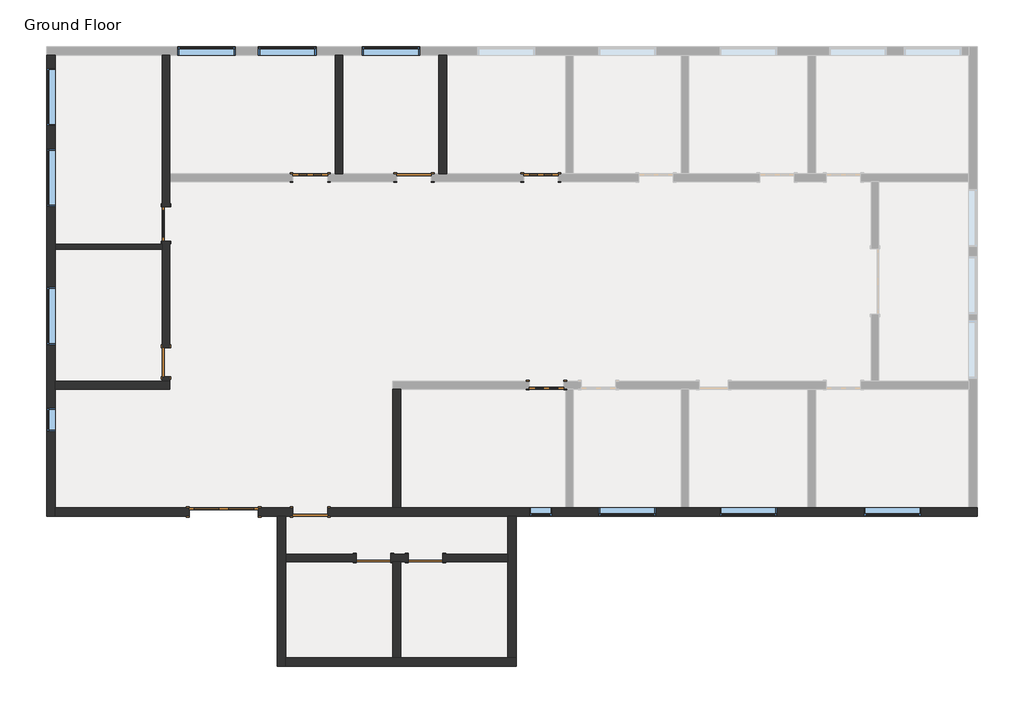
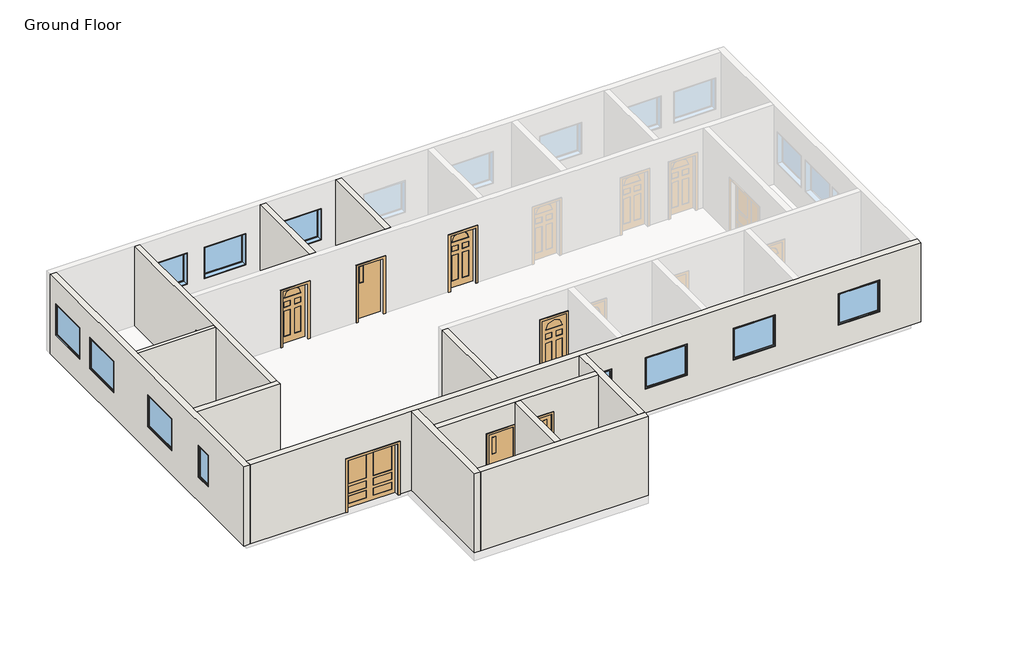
# One storey, part 1 of 2: 13 walls, 11 windows, 10 doors.
"""IFC4 building model written with IfcOpenShell, lengths in millimetres."""

from ifc_helpers import new_model, si_unit, origin, origin_with_axes, place, context, project, spatial, polyline, outline, extrude, faceted_brep, transform, mapped, element, save
from components import door_5adec8b9, door_f6339938, door_4314e8ec, door_6ffddb7e, door_a570ce24, door_2b60cb60, door_505a9a4a, window_c82808a1, window_145d3b12

model = new_model("IFC4")

# Units and contexts
model_context = context("Model", 3, world=origin())
ifc_project = project(units=[si_unit("LENGTHUNIT", "METRE", prefix="MILLI")], contexts=[model_context])

# Site, building, storey
site = spatial("IfcSite", under=ifc_project)
building = spatial("IfcBuilding", under=site)
storey = spatial("IfcBuildingStorey", under=building, Name="Ground Floor", Elevation=0.0)

# Doors
placement = place(None, origin())
door_shape = door_5adec8b9(model_context)
element("IfcDoor", 1, ObjectType="Double-Panel 1 : 72\" x 78\"", at=placement, inside=storey, context=model_context, shape_type="MappedRepresentation", body=[
    mapped(door_shape, transform((-8706.0529941, -493.1212203, 0.0), x_axis=(1.0, 0.0, 0.0), y_axis=(0.0, 1.0, 0.0), z_axis=(0.0, 0.0, 1.0))),
])
door_2_shape = door_f6339938(model_context)
element("IfcDoor", 2, ObjectType="Single-Decorative 2 : 36\" x 84\"", at=placement, inside=storey, context=model_context, shape_type="MappedRepresentation", body=[
    mapped(door_2_shape, transform((-6420.0529941, 8346.0787797, 0.0), x_axis=(1.0, 0.0, 0.0), y_axis=(0.0, 1.0, 0.0), z_axis=(0.0, 0.0, 1.0))),
])
element("IfcDoor", 3, ObjectType="Single-Decorative 2 : 36\" x 84\"", at=placement, inside=storey, context=model_context, shape_type="MappedRepresentation", body=[
    mapped(door_2_shape, transform((-324.0529941, 8346.0787797, 0.0), x_axis=(1.0, 0.0, 0.0), y_axis=(0.0, 1.0, 0.0), z_axis=(0.0, 0.0, 1.0))),
])
element("IfcDoor", 4, ObjectType="Single-Decorative 2 : 36\" x 84\"", at=placement, inside=storey, context=model_context, shape_type="MappedRepresentation", body=[
    mapped(door_2_shape, transform((-171.6529941, 2859.6787797, 0.0), x_axis=(-1.0, 0.0, 0.0), y_axis=(0.0, -1.0, 0.0), z_axis=(0.0, 0.0, 1.0))),
])
door_3_shape = door_4314e8ec(model_context)
element("IfcDoor", 5, ObjectType="Single-Flush : 30\" x 84\"", at=placement, inside=storey, context=model_context, shape_type="MappedRepresentation", body=[
    mapped(door_3_shape, transform((-10230.0529941, 3469.2787797, 0.0), x_axis=(0.0, -1.0, 0.0), y_axis=(1.0, 0.0, 0.0), z_axis=(0.0, 0.0, 1.0))),
])
door_4_shape = door_6ffddb7e(model_context)
element("IfcDoor", 6, ObjectType="Single-Flush Vision : 36\" x 84\"", at=placement, inside=storey, context=model_context, shape_type="MappedRepresentation", body=[
    mapped(door_4_shape, transform((-3676.8529941, 8346.0787797, 0.0), x_axis=(1.0, 0.0, 0.0), y_axis=(0.0, 1.0, 0.0), z_axis=(0.0, 0.0, 1.0))),
])
element("IfcDoor", 7, ObjectType="Single-Flush Vision : 36\" x 84\"", at=placement, inside=storey, context=model_context, shape_type="MappedRepresentation", body=[
    mapped(door_4_shape, transform((-3372.0529941, -1712.3212203, 0.0), x_axis=(-1.0, 0.0, 0.0), y_axis=(0.0, -1.0, 0.0), z_axis=(0.0, 0.0, 1.0))),
])
door_5_shape = door_a570ce24(model_context)
element("IfcDoor", 8, ObjectType="Single-Flush Vision : 36\" x 84\"", at=placement, inside=storey, context=model_context, shape_type="MappedRepresentation", body=[
    mapped(door_5_shape, transform((-6420.0529941, -493.1212203, 0.0), x_axis=(-1.0, 0.0, 0.0), y_axis=(0.0, -1.0, 0.0), z_axis=(0.0, 0.0, 1.0))),
])
door_6_shape = door_2b60cb60(model_context)
element("IfcDoor", 9, ObjectType="Single-Flush Vision : 36\" x 84\"", at=placement, inside=storey, context=model_context, shape_type="MappedRepresentation", body=[
    mapped(door_6_shape, transform((-4743.6529941, -1712.3212203, 0.0), x_axis=(1.0, 0.0, 0.0), y_axis=(0.0, 1.0, 0.0), z_axis=(0.0, 0.0, 1.0))),
])
door_7_shape = door_505a9a4a(model_context)
element("IfcDoor", 10, ObjectType="Single-Glass 1 : 36\" x 84\"", at=placement, inside=storey, context=model_context, shape_type="MappedRepresentation", body=[
    mapped(door_7_shape, transform((-10230.0529941, 7126.8787797, 0.0), x_axis=(0.0, -1.0, 0.0), y_axis=(1.0, 0.0, 0.0), z_axis=(0.0, 0.0, 1.0))),
])

# Walls
element("IfcWall", 11, ObjectType="Generic - 5\"", at=placement, inside=storey, context=model_context, shape_type="SweptSolid", body=[
    extrude(outline(polyline([(-10331.6529941, 6453.7787797), (-13163.7529941, 6453.7787797), (-13163.7529941, 6580.7787797), (-10331.6529941, 6580.7787797), (-10331.6529941, 6453.7787797)])), origin_with_axes(), (0.0, 0.0, 1.0), 3048.0),
])
element("IfcWall", 12, ObjectType="Generic - 8\"", at=placement, inside=storey, context=model_context, shape_type="Brep", body=[
    faceted_brep([(-10331.6529941, 6669.6787797, 2133.6), (-10331.6529941, 6669.6787797, 0.0), (-10331.6529941, 6580.7787797, 0.0), (-10331.6529941, 6453.7787797, 0.0), (-10331.6529941, 3850.2787797, 0.0), (-10331.6529941, 3850.2787797, 2133.6), (-10331.6529941, 3088.2787797, 2133.6), (-10331.6529941, 3088.2787797, 0.0), (-10331.6529941, 2961.2787797, 0.0), (-10331.6529941, 2961.2787797, 3048.0), (-10331.6529941, 6453.7787797, 3048.0), (-10331.6529941, 6580.7787797, 3048.0), (-10331.6529941, 11584.5787797, 3048.0), (-10331.6529941, 11584.5787797, 0.0), (-10331.6529941, 7584.0787797, 0.0), (-10331.6529941, 7584.0787797, 2133.6), (-10128.4529941, 3850.2787797, 0.0), (-10128.4529941, 6669.6787797, 0.0), (-10128.4529941, 6669.6787797, 2133.6), (-10128.4529941, 7584.0787797, 2133.6), (-10128.4529941, 7584.0787797, 0.0), (-10128.4529941, 8244.4787797, 0.0), (-10128.4529941, 8447.6787797, 0.0), (-10128.4529941, 11584.5787797, 0.0), (-10128.4529941, 11584.5787797, 3048.0), (-10128.4529941, 8447.6787797, 3048.0), (-10128.4529941, 8244.4787797, 3048.0), (-10128.4529941, 2961.2787797, 3048.0), (-10128.4529941, 2961.2787797, 0.0), (-10128.4529941, 3088.2787797, 0.0), (-10128.4529941, 3088.2787797, 2133.6), (-10128.4529941, 3850.2787797, 2133.6)], [[[0, 1, 2, 3, 4, 5, 6, 7, 8, 9, 10, 11, 12, 13, 14, 15]], [[16, 17, 18, 19, 20, 21, 22, 23, 24, 25, 26, 27, 28, 29, 30, 31]], [[8, 7, 29, 28]], [[14, 13, 23, 22, 21, 20]], [[4, 3, 2, 1, 17, 16]], [[12, 11, 10, 9, 27, 26, 25, 24]], [[13, 12, 24, 23]], [[9, 8, 28, 27]], [[30, 29, 7, 6]], [[31, 30, 6, 5]], [[16, 31, 5, 4]], [[18, 17, 1, 0]], [[19, 18, 0, 15]], [[20, 19, 15, 14]]]),
])
element("IfcWall", 13, ObjectType="Generic - 8\"", at=placement, inside=storey, context=model_context, shape_type="Brep", body=[
    faceted_brep([(-10128.4529941, 2961.2787797, 0.0), (-10331.6529941, 2961.2787797, 0.0), (-13163.7529941, 2961.2787797, 0.0), (-13163.7529941, 2961.2787797, 3048.0), (-10331.6529941, 2961.2787797, 3048.0), (-10128.4529941, 2961.2787797, 3048.0), (-10128.4529941, 2758.0787797, 0.0), (-10128.4529941, 2758.0787797, 3048.0), (-13163.7529941, 2758.0787797, 3048.0), (-13163.7529941, 2758.0787797, 0.0)], [[[0, 1, 2, 3, 4, 5]], [[6, 7, 8, 9]], [[2, 1, 0, 6, 9]], [[5, 4, 3, 8, 7]], [[3, 2, 9, 8]], [[0, 5, 7, 6]]]),
])
element("IfcWall", 14, ObjectType="Generic - 8\"", at=placement, inside=storey, context=model_context, shape_type="SweptSolid", body=[
    extrude(outline(polyline([(-5556.4529941, 11584.5787797), (-5556.4529941, 8447.6787797), (-5759.6529941, 8447.6787797), (-5759.6529941, 11584.5787797), (-5556.4529941, 11584.5787797)])), origin_with_axes(), (0.0, 0.0, 1.0), 3048.0),
])
element("IfcWall", 15, ObjectType="Generic - 8\"", at=placement, inside=storey, context=model_context, shape_type="SweptSolid", body=[
    extrude(outline(polyline([(-3016.4529941, 8447.6787797), (-3016.4529941, 11584.5787797), (-2813.2529941, 11584.5787797), (-2813.2529941, 8447.6787797), (-3016.4529941, 8447.6787797)])), origin_with_axes(), (0.0, 0.0, 1.0), 3048.0),
])
element("IfcWall", 16, ObjectType="Generic - 8\"", at=placement, inside=storey, context=model_context, shape_type="SweptSolid", body=[
    extrude(outline(polyline([(-4032.4529941, 2758.0787797), (-4032.4529941, -378.8212203), (-4235.6529941, -378.8212203), (-4235.6529941, 2758.0787797), (-4032.4529941, 2758.0787797)])), origin_with_axes(), (0.0, 0.0, 1.0), 3048.0),
])
element("IfcWall", 17, ObjectType="Generic - 8\"", at=placement, inside=storey, context=model_context, shape_type="SweptSolid", body=[
    extrude(outline(polyline([(-4032.4529941, -1813.9212203), (-4032.4529941, -4341.2212203), (-4235.6529941, -4341.2212203), (-4235.6529941, -1813.9212203), (-4032.4529941, -1813.9212203)])), origin_with_axes(), (0.0, 0.0, 1.0), 3048.0),
])
element("IfcWall", 18, ObjectType="Generic - 8\"", at=placement, inside=storey, context=model_context, shape_type="Brep", body=[
    faceted_brep([(-3829.2529941, -1610.7212203, 2133.6), (-3829.2529941, -1610.7212203, 0.0), (-4286.4529941, -1610.7212203, 0.0), (-4286.4529941, -1610.7212203, 2133.6), (-5200.8529941, -1610.7212203, 2133.6), (-5200.8529941, -1610.7212203, 0.0), (-7067.7529941, -1610.7212203, 0.0), (-7067.7529941, -1610.7212203, 3048.0), (-1200.3529941, -1610.7212203, 3048.0), (-1200.3529941, -1610.7212203, 0.0), (-2914.8529941, -1610.7212203, 0.0), (-2914.8529941, -1610.7212203, 2133.6), (-4286.4529941, -1813.9212203, 0.0), (-4235.6529941, -1813.9212203, 0.0), (-4032.4529941, -1813.9212203, 0.0), (-3829.2529941, -1813.9212203, 0.0), (-3829.2529941, -1813.9212203, 2133.6), (-2914.8529941, -1813.9212203, 2133.6), (-2914.8529941, -1813.9212203, 0.0), (-1200.3529941, -1813.9212203, 0.0), (-1200.3529941, -1813.9212203, 3048.0), (-4032.4529941, -1813.9212203, 3048.0), (-4235.6529941, -1813.9212203, 3048.0), (-7067.7529941, -1813.9212203, 3048.0), (-7067.7529941, -1813.9212203, 0.0), (-5200.8529941, -1813.9212203, 0.0), (-5200.8529941, -1813.9212203, 2133.6), (-4286.4529941, -1813.9212203, 2133.6)], [[[0, 1, 2, 3, 4, 5, 6, 7, 8, 9, 10, 11]], [[12, 13, 14, 15, 16, 17, 18, 19, 20, 21, 22, 23, 24, 25, 26, 27]], [[25, 24, 6, 5]], [[10, 9, 19, 18]], [[2, 1, 15, 14, 13, 12]], [[8, 7, 23, 22, 21, 20]], [[7, 6, 24, 23]], [[9, 8, 20, 19]], [[3, 2, 12, 27]], [[4, 3, 27, 26]], [[5, 4, 26, 25]], [[16, 15, 1, 0]], [[17, 16, 0, 11]], [[18, 17, 11, 10]]]),
])
element("IfcWall", 19, ObjectType="Generic- 9\"", at=placement, inside=storey, context=model_context, shape_type="Brep", body=[
    faceted_brep([(-13163.7529941, -607.4212203, 0.0), (-13163.7529941, -378.8212203, 0.0), (-13163.7529941, 2758.0787797, 0.0), (-13163.7529941, 2961.2787797, 0.0), (-13163.7529941, 6453.7787797, 0.0), (-13163.7529941, 6580.7787797, 0.0), (-13163.7529941, 11584.5787797, 0.0), (-13163.7529941, 11584.5787797, 3048.0), (-13163.7529941, 6580.7787797, 3048.0), (-13163.7529941, 6453.7787797, 3048.0), (-13163.7529941, 2961.2787797, 3048.0), (-13163.7529941, 2758.0787797, 3048.0), (-13163.7529941, -378.8212203, 3048.0), (-13163.7529941, -607.4212203, 3048.0), (-13163.7529941, 5450.4787797, 2133.6), (-13163.7529941, 5450.4787797, 914.4), (-13163.7529941, 3926.4787797, 914.4), (-13163.7529941, 3926.4787797, 2133.6), (-13163.7529941, 9108.0787797, 2133.6), (-13163.7529941, 9108.0787797, 914.4), (-13163.7529941, 7584.0787797, 914.4), (-13163.7529941, 7584.0787797, 2133.6), (-13163.7529941, 11241.6787797, 2133.6), (-13163.7529941, 11241.6787797, 914.4), (-13163.7529941, 9717.6787797, 914.4), (-13163.7529941, 9717.6787797, 2133.6), (-13163.7529941, 2250.0787797, 2133.6), (-13163.7529941, 2250.0787797, 914.4), (-13163.7529941, 1640.4787797, 914.4), (-13163.7529941, 1640.4787797, 2133.6), (-13392.3529941, -607.4212203, 0.0), (-13392.3529941, -607.4212203, 3048.0), (-13392.3529941, 11584.5787797, 3048.0), (-13392.3529941, 11584.5787797, 0.0), (-13392.3529941, 5450.4787797, 2133.6), (-13392.3529941, 3926.4787797, 2133.6), (-13392.3529941, 3926.4787797, 914.4), (-13392.3529941, 5450.4787797, 914.4), (-13392.3529941, 9108.0787797, 2133.6), (-13392.3529941, 7584.0787797, 2133.6), (-13392.3529941, 7584.0787797, 914.4), (-13392.3529941, 9108.0787797, 914.4), (-13392.3529941, 11241.6787797, 2133.6), (-13392.3529941, 9717.6787797, 2133.6), (-13392.3529941, 9717.6787797, 914.4), (-13392.3529941, 11241.6787797, 914.4), (-13392.3529941, 2250.0787797, 2133.6), (-13392.3529941, 1640.4787797, 2133.6), (-13392.3529941, 1640.4787797, 914.4), (-13392.3529941, 2250.0787797, 914.4)], [[[0, 1, 2, 3, 4, 5, 6, 7, 8, 9, 10, 11, 12, 13], [14, 15, 16, 17], [18, 19, 20, 21], [22, 23, 24, 25], [26, 27, 28, 29]], [[30, 31, 32, 33], [34, 35, 36, 37], [38, 39, 40, 41], [42, 43, 44, 45], [46, 47, 48, 49]], [[6, 5, 4, 3, 2, 1, 0, 30, 33]], [[13, 12, 11, 10, 9, 8, 7, 32, 31]], [[0, 13, 31, 30]], [[7, 6, 33, 32]], [[15, 14, 34, 37]], [[16, 15, 37, 36]], [[17, 16, 36, 35]], [[14, 17, 35, 34]], [[19, 18, 38, 41]], [[20, 19, 41, 40]], [[21, 20, 40, 39]], [[18, 21, 39, 38]], [[23, 22, 42, 45]], [[24, 23, 45, 44]], [[25, 24, 44, 43]], [[22, 25, 43, 42]], [[27, 26, 46, 49]], [[28, 27, 49, 48]], [[29, 28, 48, 47]], [[26, 29, 47, 46]]]),
])
element("IfcWall", 20, ObjectType="Generic- 9\"", at=placement, inside=storey, context=model_context, shape_type="Brep", body=[
    faceted_brep([(-6877.2529941, -378.8212203, 2133.6), (-6877.2529941, -378.8212203, 0.0), (-7791.6529941, -378.8212203, 0.0), (-7791.6529941, -378.8212203, 1981.2), (-9620.4529941, -378.8212203, 1981.2), (-9620.4529941, -378.8212203, 0.0), (-13163.7529941, -378.8212203, 0.0), (-13163.7529941, -378.8212203, 3048.0), (-4235.6529941, -378.8212203, 3048.0), (-4032.4529941, -378.8212203, 3048.0), (336.3470059, -378.8212203, 3048.0), (539.5470059, -378.8212203, 3048.0), (3384.3470059, -378.8212203, 3048.0), (3587.5470059, -378.8212203, 3048.0), (6737.1470059, -378.8212203, 3048.0), (6940.3470059, -378.8212203, 3048.0), (10991.6470059, -378.8212203, 3048.0), (11220.2470059, -378.8212203, 3048.0), (11220.2470059, -378.8212203, 0.0), (10991.6470059, -378.8212203, 0.0), (6940.3470059, -378.8212203, 0.0), (6737.1470059, -378.8212203, 0.0), (3587.5470059, -378.8212203, 0.0), (3384.3470059, -378.8212203, 0.0), (539.5470059, -378.8212203, 0.0), (336.3470059, -378.8212203, 0.0), (-4032.4529941, -378.8212203, 0.0), (-4235.6529941, -378.8212203, 0.0), (-5962.8529941, -378.8212203, 0.0), (-5962.8529941, -378.8212203, 2133.6), (8210.3470059, -378.8212203, 2133.6), (8210.3470059, -378.8212203, 914.4), (9734.3470059, -378.8212203, 914.4), (9734.3470059, -378.8212203, 2133.6), (4400.3470059, -378.8212203, 2133.6), (4400.3470059, -378.8212203, 914.4), (5924.3470059, -378.8212203, 914.4), (5924.3470059, -378.8212203, 2133.6), (1199.9470059, -378.8212203, 2133.6), (1199.9470059, -378.8212203, 914.4), (2723.9470059, -378.8212203, 914.4), (2723.9470059, -378.8212203, 2133.6), (-628.8529941, -378.8212203, 2133.6), (-628.8529941, -378.8212203, 914.4), (-19.2529941, -378.8212203, 914.4), (-19.2529941, -378.8212203, 2133.6), (-7791.6529941, -607.4212203, 0.0), (-7296.3529941, -607.4212203, 0.0), (-7067.7529941, -607.4212203, 0.0), (-6877.2529941, -607.4212203, 0.0), (-6877.2529941, -607.4212203, 2133.6), (-5962.8529941, -607.4212203, 2133.6), (-5962.8529941, -607.4212203, 0.0), (-1200.3529941, -607.4212203, 0.0), (-971.7529941, -607.4212203, 0.0), (11220.2470059, -607.4212203, 0.0), (11220.2470059, -607.4212203, 3048.0), (-971.7529941, -607.4212203, 3048.0), (-1200.3529941, -607.4212203, 3048.0), (-7067.7529941, -607.4212203, 3048.0), (-7296.3529941, -607.4212203, 3048.0), (-13163.7529941, -607.4212203, 3048.0), (-13163.7529941, -607.4212203, 0.0), (-9620.4529941, -607.4212203, 0.0), (-9620.4529941, -607.4212203, 1981.2), (-7791.6529941, -607.4212203, 1981.2), (8210.3470059, -607.4212203, 2133.6), (9734.3470059, -607.4212203, 2133.6), (9734.3470059, -607.4212203, 914.4), (8210.3470059, -607.4212203, 914.4), (4400.3470059, -607.4212203, 2133.6), (5924.3470059, -607.4212203, 2133.6), (5924.3470059, -607.4212203, 914.4), (4400.3470059, -607.4212203, 914.4), (1199.9470059, -607.4212203, 2133.6), (2723.9470059, -607.4212203, 2133.6), (2723.9470059, -607.4212203, 914.4), (1199.9470059, -607.4212203, 914.4), (-628.8529941, -607.4212203, 2133.6), (-19.2529941, -607.4212203, 2133.6), (-19.2529941, -607.4212203, 914.4), (-628.8529941, -607.4212203, 914.4)], [[[0, 1, 2, 3, 4, 5, 6, 7, 8, 9, 10, 11, 12, 13, 14, 15, 16, 17, 18, 19, 20, 21, 22, 23, 24, 25, 26, 27, 28, 29], [30, 31, 32, 33], [34, 35, 36, 37], [38, 39, 40, 41], [42, 43, 44, 45]], [[46, 47, 48, 49, 50, 51, 52, 53, 54, 55, 56, 57, 58, 59, 60, 61, 62, 63, 64, 65], [66, 67, 68, 69], [70, 71, 72, 73], [74, 75, 76, 77], [78, 79, 80, 81]], [[62, 6, 5, 63]], [[2, 1, 49, 48, 47, 46]], [[28, 27, 26, 25, 24, 23, 22, 21, 20, 19, 18, 55, 54, 53, 52]], [[17, 16, 15, 14, 13, 12, 11, 10, 9, 8, 7, 61, 60, 59, 58, 57, 56]], [[18, 17, 56, 55]], [[7, 6, 62, 61]], [[65, 3, 2, 46]], [[3, 65, 64, 4]], [[4, 64, 63, 5]], [[50, 49, 1, 0]], [[51, 50, 0, 29]], [[52, 51, 29, 28]], [[31, 30, 66, 69]], [[32, 31, 69, 68]], [[33, 32, 68, 67]], [[30, 33, 67, 66]], [[35, 34, 70, 73]], [[36, 35, 73, 72]], [[37, 36, 72, 71]], [[34, 37, 71, 70]], [[39, 38, 74, 77]], [[40, 39, 77, 76]], [[41, 40, 76, 75]], [[38, 41, 75, 74]], [[43, 42, 78, 81]], [[44, 43, 81, 80]], [[45, 44, 80, 79]], [[42, 45, 79, 78]]]),
])
element("IfcWall", 21, ObjectType="Generic- 9\"", at=placement, inside=storey, context=model_context, shape_type="Brep", body=[
    faceted_brep([(-7296.3529941, -607.4212203, 0.0), (-7296.3529941, -4569.8212203, 0.0), (-7296.3529941, -4569.8212203, 3048.0), (-7296.3529941, -607.4212203, 3048.0), (-7067.7529941, -607.4212203, 0.0), (-7067.7529941, -607.4212203, 3048.0), (-7067.7529941, -1610.7212203, 3048.0), (-7067.7529941, -1813.9212203, 3048.0), (-7067.7529941, -4341.2212203, 3048.0), (-7067.7529941, -4569.8212203, 3048.0), (-7067.7529941, -4569.8212203, 0.0), (-7067.7529941, -4341.2212203, 0.0), (-7067.7529941, -1813.9212203, 0.0), (-7067.7529941, -1610.7212203, 0.0)], [[[0, 1, 2, 3]], [[4, 5, 6, 7, 8, 9, 10, 11, 12, 13]], [[1, 0, 4, 13, 12, 11, 10]], [[3, 2, 9, 8, 7, 6, 5]], [[0, 3, 5, 4]], [[2, 1, 10, 9]]]),
])
element("IfcWall", 22, ObjectType="Generic- 9\"", at=placement, inside=storey, context=model_context, shape_type="Brep", body=[
    faceted_brep([(-7067.7529941, -4569.8212203, 0.0), (-971.7529941, -4569.8212203, 0.0), (-971.7529941, -4569.8212203, 3048.0), (-7067.7529941, -4569.8212203, 3048.0), (-7067.7529941, -4341.2212203, 0.0), (-7067.7529941, -4341.2212203, 3048.0), (-4235.6529941, -4341.2212203, 3048.0), (-4032.4529941, -4341.2212203, 3048.0), (-1200.3529941, -4341.2212203, 3048.0), (-971.7529941, -4341.2212203, 3048.0), (-971.7529941, -4341.2212203, 0.0), (-1200.3529941, -4341.2212203, 0.0), (-4032.4529941, -4341.2212203, 0.0), (-4235.6529941, -4341.2212203, 0.0)], [[[0, 1, 2, 3]], [[4, 5, 6, 7, 8, 9, 10, 11, 12, 13]], [[1, 0, 4, 13, 12, 11, 10]], [[3, 2, 9, 8, 7, 6, 5]], [[0, 3, 5, 4]], [[2, 1, 10, 9]]]),
])
element("IfcWall", 23, ObjectType="Generic- 9\"", at=placement, inside=storey, context=model_context, shape_type="Brep", body=[
    faceted_brep([(-971.7529941, -4341.2212203, 0.0), (-971.7529941, -607.4212203, 0.0), (-971.7529941, -607.4212203, 3048.0), (-971.7529941, -4341.2212203, 3048.0), (-1200.3529941, -4341.2212203, 0.0), (-1200.3529941, -4341.2212203, 3048.0), (-1200.3529941, -1813.9212203, 3048.0), (-1200.3529941, -1610.7212203, 3048.0), (-1200.3529941, -607.4212203, 3048.0), (-1200.3529941, -607.4212203, 0.0), (-1200.3529941, -1610.7212203, 0.0), (-1200.3529941, -1813.9212203, 0.0)], [[[0, 1, 2, 3]], [[4, 5, 6, 7, 8, 9, 10, 11]], [[1, 0, 4, 11, 10, 9]], [[3, 2, 8, 7, 6, 5]], [[0, 3, 5, 4]], [[2, 1, 9, 8]]]),
])

# Windows
window_shape = window_c82808a1(model_context)
element("IfcWindow", 24, ObjectType="Fixed : 24\" x 48\"", at=placement, inside=storey, context=model_context, shape_type="MappedRepresentation", body=[
    mapped(window_shape, transform((-362.1529941, -493.1212203, 0.0), x_axis=(-1.0, 0.0, 0.0), y_axis=(0.0, -1.0, 0.0), z_axis=(0.0, 0.0, 1.0))),
])
element("IfcWindow", 25, ObjectType="Fixed : 24\" x 48\"", at=placement, inside=storey, context=model_context, shape_type="MappedRepresentation", body=[
    mapped(window_shape, transform((-13278.0529941, 1983.3787797, 0.0), x_axis=(0.0, 1.0, 0.0), y_axis=(-1.0, 0.0, 0.0), z_axis=(0.0, 0.0, 1.0))),
])
window_2_shape = window_145d3b12(model_context)
element("IfcWindow", 26, ObjectType="Fixed : 60\" x 48\"", at=placement, inside=storey, context=model_context, shape_type="MappedRepresentation", body=[
    mapped(window_2_shape, transform((-13278.0529941, 4726.5787797, 0.0), x_axis=(0.0, 1.0, 0.0), y_axis=(-1.0, 0.0, 0.0), z_axis=(0.0, 0.0, 1.0))),
])
element("IfcWindow", 27, ObjectType="Fixed : 60\" x 48\"", at=placement, inside=storey, context=model_context, shape_type="MappedRepresentation", body=[
    mapped(window_2_shape, transform((-13278.0529941, 8384.1787797, 0.0), x_axis=(0.0, 1.0, 0.0), y_axis=(-1.0, 0.0, 0.0), z_axis=(0.0, 0.0, 1.0))),
])
element("IfcWindow", 28, ObjectType="Fixed : 60\" x 48\"", at=placement, inside=storey, context=model_context, shape_type="MappedRepresentation", body=[
    mapped(window_2_shape, transform((-13278.0529941, 10517.7787797, 0.0), x_axis=(0.0, 1.0, 0.0), y_axis=(-1.0, 0.0, 0.0), z_axis=(0.0, 0.0, 1.0))),
])
element("IfcWindow", 29, ObjectType="Fixed : 60\" x 48\"", at=placement, inside=storey, context=model_context, shape_type="MappedRepresentation", body=[
    mapped(window_2_shape, transform((-9125.1529941, 11698.8787797, 0.0), x_axis=(1.0, 0.0, 0.0), y_axis=(0.0, 1.0, 0.0), z_axis=(0.0, 0.0, 1.0))),
])
element("IfcWindow", 30, ObjectType="Fixed : 60\" x 48\"", at=placement, inside=storey, context=model_context, shape_type="MappedRepresentation", body=[
    mapped(window_2_shape, transform((-6991.5529941, 11698.8787797, 0.0), x_axis=(1.0, 0.0, 0.0), y_axis=(0.0, 1.0, 0.0), z_axis=(0.0, 0.0, 1.0))),
])
element("IfcWindow", 31, ObjectType="Fixed : 60\" x 48\"", at=placement, inside=storey, context=model_context, shape_type="MappedRepresentation", body=[
    mapped(window_2_shape, transform((-4248.3529941, 11698.8787797, 0.0), x_axis=(1.0, 0.0, 0.0), y_axis=(0.0, 1.0, 0.0), z_axis=(0.0, 0.0, 1.0))),
])
element("IfcWindow", 32, ObjectType="Fixed : 60\" x 48\"", at=placement, inside=storey, context=model_context, shape_type="MappedRepresentation", body=[
    mapped(window_2_shape, transform((8934.2470059, -493.1212203, 0.0), x_axis=(-1.0, 0.0, 0.0), y_axis=(0.0, -1.0, 0.0), z_axis=(0.0, 0.0, 1.0))),
])
element("IfcWindow", 33, ObjectType="Fixed : 60\" x 48\"", at=placement, inside=storey, context=model_context, shape_type="MappedRepresentation", body=[
    mapped(window_2_shape, transform((5124.2470059, -493.1212203, 0.0), x_axis=(-1.0, 0.0, 0.0), y_axis=(0.0, -1.0, 0.0), z_axis=(0.0, 0.0, 1.0))),
])
element("IfcWindow", 34, ObjectType="Fixed : 60\" x 48\"", at=placement, inside=storey, context=model_context, shape_type="MappedRepresentation", body=[
    mapped(window_2_shape, transform((1923.8470059, -493.1212203, 0.0), x_axis=(-1.0, 0.0, 0.0), y_axis=(0.0, -1.0, 0.0), z_axis=(0.0, 0.0, 1.0))),
])

save(model, "model.ifc")
